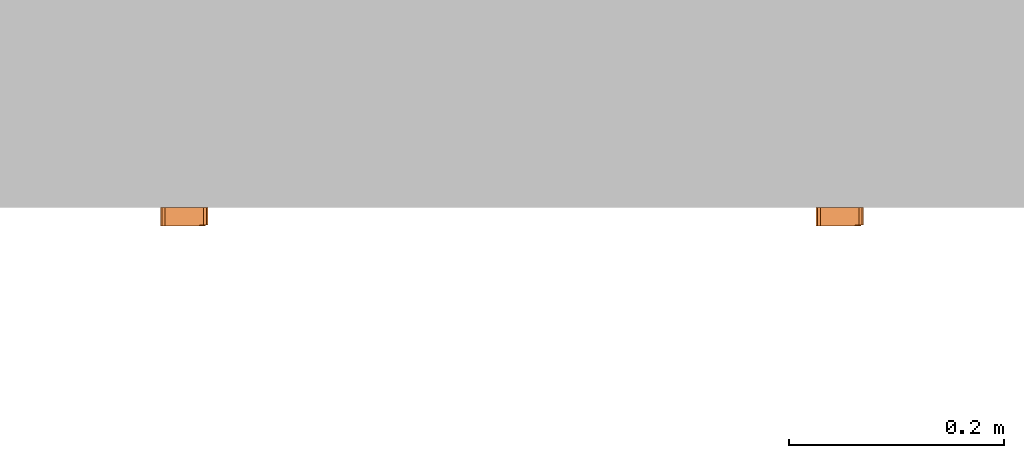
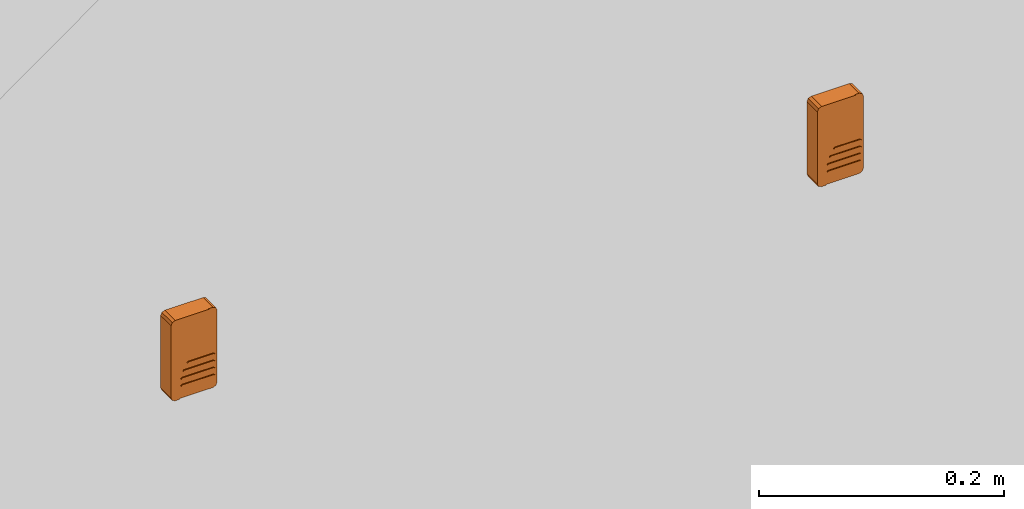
# One storey, part 186 of 197: 2 proxies.
"""IFC2X3 building model written with IfcOpenShell, lengths in metres."""

import ifcopenshell
import ifcopenshell.guid

model = None  # the IFC model being written
_history = None  # IfcOwnerHistory: only IFC2X3 demands one
_inside = {}  # id of a spatial element -> (the spatial element, [elements in it])
_under = {}  # id of a project, library or spatial element -> (it, [spatial elements below it])
_declared = {}  # id of a project -> (the project, [libraries it declares])
_typed = {}  # id of a type object -> (the type object, [elements of that type])
_made_of = {}  # id of a material, layer set ... -> (it, [elements and type objects made of it])


def new_model(schema):
    """Start an empty IFC model of exactly this schema.

    Asked for "IFC4X3", IfcOpenShell would pick the latest addendum, in which some entities
    have other attributes; the version numbers below select the first issue.
    IFC2X3 requires an IfcOwnerHistory on every rooted entity: one is made here for all.
    """
    global model, _history
    if schema == "IFC4X3":
        model = ifcopenshell.file(schema_version=(4, 3, 0, 0))
    else:
        model = ifcopenshell.file(schema=schema)
    _inside.clear()
    _under.clear()
    _declared.clear()
    _typed.clear()
    _made_of.clear()
    _history = None
    if model.schema == "IFC2X3":
        org = make("IfcOrganization", Name="unknown")
        user = make(
            "IfcPersonAndOrganization",
            ThePerson=make("IfcPerson", FamilyName="unknown"),
            TheOrganization=org,
        )
        app = make(
            "IfcApplication",
            ApplicationDeveloper=org,
            Version="unknown",
            ApplicationFullName="unknown",
            ApplicationIdentifier="unknown",
        )
        _history = make(
            "IfcOwnerHistory",
            OwningUser=user,
            OwningApplication=app,
            ChangeAction="ADDED",
            CreationDate=0,
        )
    return model


def make(cls, **values):
    """One entity of the class cls with the attributes given. An attribute that is None is left unset."""
    return model.create_entity(
        cls, **{name: value for name, value in values.items() if value is not None}
    )


def entity(cls, *values):
    """Any entity or typed value of the class cls, its attributes in the order of the schema. None: left unset."""
    e = model.create_entity(cls)
    for i, value in enumerate(values):
        if value is not None:
            e[i] = value
    return e


def rooted(cls, **values):
    """An entity with a GlobalId (a new one), such as an element, a storey or a relation."""
    return make(cls, GlobalId=ifcopenshell.guid.new(), OwnerHistory=_history, **values)


def si_unit(unit_type, name, prefix=None):
    """IfcSIUnit, for example si_unit("LENGTHUNIT", "METRE", prefix="MILLI")."""
    return make("IfcSIUnit", UnitType=unit_type, Prefix=prefix, Name=name)


def converted_unit(unit_type, name, factor, base, dimensions=None, offset=None):
    """IfcConversionBasedUnit, such as the inch: factor (a typed value) times the base unit."""
    return make(
        "IfcConversionBasedUnit"
        if offset is None
        else "IfcConversionBasedUnitWithOffset",
        ConversionOffset=offset,
        Dimensions=None
        if dimensions is None
        else entity("IfcDimensionalExponents", *dimensions),
        UnitType=unit_type,
        Name=name,
        ConversionFactor=make(
            "IfcMeasureWithUnit", ValueComponent=factor, UnitComponent=base
        ),
    )


def assignment(units):
    """IfcUnitAssignment: the units of a project."""
    return None if units is None else make("IfcUnitAssignment", Units=units)


def point(xyz):
    """IfcCartesianPoint."""
    return None if xyz is None else make("IfcCartesianPoint", Coordinates=xyz)


def direction(xyz):
    """IfcDirection."""
    return None if xyz is None else make("IfcDirection", DirectionRatios=xyz)


def frame(location, z_axis=None, x_axis=None):
    """IfcAxis2Placement3D, a coordinate frame: its origin and axes. An axis left out is left unset."""
    return make(
        "IfcAxis2Placement3D",
        Location=point(location),
        Axis=direction(z_axis),
        RefDirection=direction(x_axis),
    )


def origin():
    """The frame at (0, 0, 0) with its axes left unset."""
    return frame((0.0, 0.0, 0.0))


def place(relative_to, where):
    """IfcLocalPlacement: puts the frame where relative to a parent placement (None: the world)."""
    return make(
        "IfcLocalPlacement", PlacementRelTo=relative_to, RelativePlacement=where
    )


def context(
    kind, dimensions, precision=None, world=None, true_north=None, identifier=None
):
    """IfcGeometricRepresentationContext, for example the 3D "Model" context."""
    return make(
        "IfcGeometricRepresentationContext",
        ContextIdentifier=identifier,
        ContextType=kind,
        CoordinateSpaceDimension=dimensions,
        Precision=precision,
        WorldCoordinateSystem=world,
        TrueNorth=true_north,
    )


def subcontext(parent, identifier, kind, view, scale=None):
    """IfcGeometricRepresentationSubContext, for example "Body" below "Model"."""
    return make(
        "IfcGeometricRepresentationSubContext",
        ContextIdentifier=identifier,
        ContextType=kind,
        ParentContext=parent,
        TargetScale=scale,
        TargetView=view,
    )


def project(units=None, contexts=None):
    """IfcProject with its units and contexts."""
    return rooted(
        "IfcProject",
        Name="project",
        RepresentationContexts=contexts,
        UnitsInContext=assignment(units),
    )


def spatial(cls, under=None, at=None, **own):
    """A site, building, storey or space (cls), placed at a placement, below another one or the project."""
    s = rooted(cls, ObjectPlacement=at, **own)
    if under is not None:
        _under.setdefault(under.id(), (under, []))[1].append(s)
    return s


def faces_of(points, faces, orient=None, outer=None):
    """IfcFace entities. A face is a list of loops; a loop is a list of indices into points, from 0.

    orient and outer hold one flag for each loop. By default every Orientation is true, the
    first loop of a face is its IfcFaceOuterBound and the others are IfcFaceBound.
    """
    made = []
    for i, loops in enumerate(faces):
        bounds = []
        for j, loop in enumerate(loops):
            is_outer = j == 0 if outer is None else outer[i][j]
            bounds.append(
                make(
                    "IfcFaceOuterBound" if is_outer else "IfcFaceBound",
                    Bound=make("IfcPolyLoop", Polygon=[points[k] for k in loop]),
                    Orientation=True if orient is None else orient[i][j],
                )
            )
        made.append(make("IfcFace", Bounds=bounds))
    return made


def faceted_brep(points, faces, orient=None, outer=None, voids=None):
    """IfcFacetedBrep: a solid bounded by flat faces; with voids (closed shells), ...WithVoids."""
    shared = [point(p) for p in points]
    hull = make("IfcClosedShell", CfsFaces=faces_of(shared, faces, orient, outer))
    if voids is None:
        return make("IfcFacetedBrep", Outer=hull)
    return make(
        "IfcFacetedBrepWithVoids",
        Outer=hull,
        Voids=[
            make(cls, CfsFaces=faces_of(shared, fs, o, b)) for cls, fs, o, b in voids
        ],
    )


def shape(context_of_items, identifier, shape_type, items):
    """IfcShapeRepresentation: the items that make up one representation, for example the "Body"."""
    return make(
        "IfcShapeRepresentation",
        ContextOfItems=context_of_items,
        RepresentationIdentifier=identifier,
        RepresentationType=shape_type,
        Items=items,
    )


def source(mapping_origin, context_of_items, identifier, shape_type, items):
    """IfcRepresentationMap: a shape defined once, which mapped items show again and again."""
    return make(
        "IfcRepresentationMap",
        MappingOrigin=mapping_origin,
        MappedRepresentation=shape(context_of_items, identifier, shape_type, items),
    )


def transform(
    local_origin,
    x_axis=None,
    y_axis=None,
    z_axis=None,
    scale=None,
    scale2=None,
    scale3=None,
    uniform=True,
):
    """IfcCartesianTransformationOperator3D, or its non-uniform kind. x_axis, y_axis, z_axis: its Axis1, 2, 3."""
    if uniform:
        return make(
            "IfcCartesianTransformationOperator3D",
            Axis1=direction(x_axis),
            Axis2=direction(y_axis),
            LocalOrigin=point(local_origin),
            Scale=scale,
            Axis3=direction(z_axis),
        )
    return make(
        "IfcCartesianTransformationOperator3DnonUniform",
        Axis1=direction(x_axis),
        Axis2=direction(y_axis),
        LocalOrigin=point(local_origin),
        Scale=scale,
        Axis3=direction(z_axis),
        Scale2=scale2,
        Scale3=scale3,
    )


def mapped(mapping_source, mapping_target):
    """IfcMappedItem: shows the shape of a source again, moved by a transform."""
    return make(
        "IfcMappedItem", MappingSource=mapping_source, MappingTarget=mapping_target
    )


def material(Name=None, Category=None):
    """IfcMaterial."""
    return make("IfcMaterial", Name=Name, Category=Category)


def material_list(materials):
    """IfcMaterialList."""
    return make("IfcMaterialList", Materials=materials)


def made_of(thing, what):
    """Note that an element or type object is made of a material, layer set ...; save() writes the relation."""
    if what is not None:
        _made_of.setdefault(what.id(), (what, []))[1].append(thing)
    return thing


def type_object(cls, material=None, **own):
    """A type object (cls), such as IfcWallType, which elements share."""
    return made_of(rooted(cls, **own), material)


def type_shapes(of_type, sources):
    """Give a type object the sources (RepresentationMaps) that its elements show as mapped items."""
    of_type.RepresentationMaps = sources


def element(
    cls,
    number,
    at=None,
    inside=None,
    cuts=None,
    type_object=None,
    material=None,
    context=None,
    identifier="Body",
    shape_type=None,
    held_by="IfcProductDefinitionShape",
    body=None,
    shapes=None,
    **own,
):
    """One element of the class cls, such as IfcWall. Its Tag is "e" and its number.

    at: its placement. inside: the storey or other place that contains it. cuts: it is an
    opening in that element (IfcRelVoidsElement). A single representation is given by context,
    identifier, shape_type and body (its items); several are given by shapes. held_by: the class
    of the entity that holds the representations. save() writes the other relations.
    """
    e = rooted(cls, Tag="e%d" % number, ObjectPlacement=at, **own)
    if body is not None:
        shapes = [shape(context, identifier, shape_type, body)]
    if shapes is not None:
        e.Representation = make(held_by, Representations=shapes)
    if inside is not None:
        _inside.setdefault(inside.id(), (inside, []))[1].append(e)
    if cuts is not None:
        rooted(
            "IfcRelVoidsElement", RelatingBuildingElement=cuts, RelatedOpeningElement=e
        )
    if type_object is not None:
        _typed.setdefault(type_object.id(), (type_object, []))[1].append(e)
    return made_of(e, material)


def aggregate(whole, parts):
    """IfcRelAggregates: a whole, such as a stair, and the parts it consists of."""
    return rooted("IfcRelAggregates", RelatingObject=whole, RelatedObjects=parts)


def save(model, path):
    """Write the relations noted so far, then the file.

    IfcRelAggregates (storeys below a building ...), IfcRelContainedInSpatialStructure (elements
    in a storey), IfcRelDefinesByType, IfcRelAssociatesMaterial and IfcRelDeclares: one each for
    every whole, place, type object, material and project.
    """
    for whole, parts in _under.values():
        aggregate(whole, parts)
    for where, things in _inside.values():
        rooted(
            "IfcRelContainedInSpatialStructure",
            RelatedElements=things,
            RelatingStructure=where,
        )
    for kind, things in _typed.values():
        rooted("IfcRelDefinesByType", RelatedObjects=things, RelatingType=kind)
    for what, things in _made_of.values():
        rooted("IfcRelAssociatesMaterial", RelatedObjects=things, RelatingMaterial=what)
    for by, libraries in _declared.values():
        rooted("IfcRelDeclares", RelatingContext=by, RelatedDefinitions=libraries)
    model.write(path)


model = new_model("IFC2X3")

# Units and contexts
model_context = context("Model", 3, precision=1e-05, world=origin(), true_north=direction((6.123031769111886e-17, 1.0)))
body_context = subcontext(model_context, "Body", "Model", "MODEL_VIEW")
ifc_project = project(units=[si_unit("LENGTHUNIT", "METRE"), converted_unit("PLANEANGLEUNIT", "DEGREE", entity("IfcPlaneAngleMeasure", 0.017453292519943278), si_unit("PLANEANGLEUNIT", "RADIAN"), dimensions=[0, 0, 0, 0, 0, 0, 0]), si_unit("AREAUNIT", "SQUARE_METRE")], contexts=[model_context])

# Site, building, storey
site_placement = place(None, origin())
site = spatial("IfcSite", under=ifc_project, at=site_placement, Name="Default", CompositionType="ELEMENT")
building_placement = place(site_placement, origin())
building = spatial("IfcBuilding", under=site, at=building_placement, CompositionType="ELEMENT")
storey_placement = place(building_placement, origin())
storey = spatial("IfcBuildingStorey", under=building, at=storey_placement, Name="Niveau 0", CompositionType="ELEMENT", Elevation=0.0)

# Proxies
ifc_material_1 = material(Name="BETCE-VOYANT LECTEUR BADGE-VERT")
ifc_material_2 = material(Name="BETCE-LECTEUR BADGE-NOIR")
ifc_material_list = material_list([ifc_material_1, ifc_material_2])
building_element_proxy_type_1 = type_object("IfcBuildingElementProxyType", Name="Lecteur de badge saillie controle acces:BLEU", PredefinedType="NOTDEFINED", material=ifc_material_list)
shared_shape_1 = source(origin(), body_context, "Body", "Brep", [
    faceted_brep([(0.007121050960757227, -0.01700000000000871, 0.019818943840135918), (0.00912105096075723, -0.01700000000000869, 0.01781894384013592), (0.011121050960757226, -0.01700000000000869, 0.01981894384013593), (0.00912105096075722, -0.01700000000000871, 0.02181894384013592), (0.009121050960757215, -0.01600000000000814, 0.021818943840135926), (0.01112105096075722, -0.01600000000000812, 0.019818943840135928), (0.009121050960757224, -0.01600000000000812, 0.017818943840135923), (0.0071210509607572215, -0.01600000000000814, 0.019818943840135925)], [[[0, 1, 2, 3]], [[4, 5, 6, 7]], [[0, 7, 6, 1]], [[6, 5, 2, 1]], [[2, 5, 4, 3]], [[4, 7, 0, 3]]]),
    faceted_brep([(0.00912105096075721, -0.01700000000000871, 0.021818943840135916), (0.014034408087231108, -0.017000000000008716, 0.028399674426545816), (0.014027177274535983, -0.017000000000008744, 0.03400142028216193), (-0.017999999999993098, -0.017000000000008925, 0.03999999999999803), (0.013910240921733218, -0.017000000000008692, 0.023212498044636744), (0.01112105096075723, -0.01700000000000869, 0.019818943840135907), (0.007121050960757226, -0.01700000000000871, 0.019818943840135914), (0.01354322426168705, -0.01700000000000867, 0.01845762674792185), (0.00912105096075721, -0.01700000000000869, 0.01781894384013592), (0.012821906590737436, -0.017000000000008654, 0.014152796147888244), (0.011634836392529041, -0.01700000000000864, 0.010315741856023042), (0.009870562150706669, -0.017000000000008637, 0.0069641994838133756), (0.007417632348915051, -0.017000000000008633, 0.004115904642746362), (0.0041645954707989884, -0.017000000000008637, 0.001788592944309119), (0.014000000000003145, -0.017000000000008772, 0.03999999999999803), (-0.021999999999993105, -0.017000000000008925, 0.035999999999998), (-0.020828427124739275, -0.01700000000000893, 0.03882842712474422), (-0.00416459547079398, -0.01700000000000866, -0.0017885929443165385), (-0.007417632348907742, -0.017000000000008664, -0.004115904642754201), (-0.009870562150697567, -0.01700000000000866, -0.006964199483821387), (-0.011634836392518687, -0.017000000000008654, -0.01031574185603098), (-0.012821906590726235, -0.01700000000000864, -0.014152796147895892), (-0.021999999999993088, -0.01700000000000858, -0.036000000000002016), (-0.013543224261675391, -0.017000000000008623, -0.018457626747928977), (-0.013910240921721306, -0.017000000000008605, -0.023212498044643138), (-0.014034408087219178, -0.01700000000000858, -0.028399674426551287), (-0.014027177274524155, -0.017000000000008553, -0.03400142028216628), (-0.017999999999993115, -0.017000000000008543, -0.04000000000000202), (-0.020828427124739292, -0.017000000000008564, -0.0388284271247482), (-0.01399999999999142, -0.017000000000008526, -0.04000000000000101), (0.0, -0.017000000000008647, 0.0), (0.019649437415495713, -0.017000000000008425, -0.02758760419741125), (0.018649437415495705, -0.017000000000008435, -0.026587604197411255), (-0.011350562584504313, -0.017000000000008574, -0.02658760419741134), (-0.012350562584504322, -0.017000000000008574, -0.027587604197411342), (-0.011350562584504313, -0.017000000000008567, -0.028587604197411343), (0.018649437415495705, -0.017000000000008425, -0.028587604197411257), (0.01964943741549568, -0.017000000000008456, -0.02058760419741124), (0.01864943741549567, -0.017000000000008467, -0.01958760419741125), (-0.011350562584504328, -0.01700000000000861, -0.019587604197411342), (-0.012350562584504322, -0.01700000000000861, -0.020587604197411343), (-0.011350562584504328, -0.0170000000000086, -0.021587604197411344), (0.01864943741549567, -0.017000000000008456, -0.021587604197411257), (0.019649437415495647, -0.01700000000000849, -0.013587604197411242), (0.01864943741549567, -0.0170000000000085, -0.01258760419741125), (-0.009350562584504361, -0.017000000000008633, -0.012587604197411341), (-0.010350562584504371, -0.017000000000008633, -0.013587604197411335), (-0.009350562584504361, -0.017000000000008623, -0.014587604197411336), (0.01864943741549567, -0.01700000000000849, -0.014587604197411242), (0.019649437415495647, -0.017000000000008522, -0.006587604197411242), (0.018649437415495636, -0.017000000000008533, -0.00558760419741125), (-0.005350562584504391, -0.017000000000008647, -0.0055876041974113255), (-0.0063505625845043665, -0.017000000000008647, -0.006587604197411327), (-0.005350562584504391, -0.017000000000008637, -0.007587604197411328), (0.018649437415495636, -0.017000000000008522, -0.007587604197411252), (-0.006350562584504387, -0.016000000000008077, -0.006587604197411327), (-0.007417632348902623, -0.016000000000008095, -0.004115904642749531), (-0.009870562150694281, -0.01600000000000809, -0.0069641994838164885), (-0.005350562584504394, -0.016000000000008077, -0.005587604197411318), (-0.005350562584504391, -0.01600000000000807, -0.0075876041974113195), (-0.004164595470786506, -0.01600000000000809, -0.0017885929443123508), (0.0, -0.01600000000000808, 0.0), (0.01864943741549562, -0.016000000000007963, -0.00558760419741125), (0.004164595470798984, -0.016000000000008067, 0.001788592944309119), (0.007417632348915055, -0.016000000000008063, 0.004115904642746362), (0.00987056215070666, -0.016000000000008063, 0.0069641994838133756), (0.011634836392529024, -0.016000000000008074, 0.010315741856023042), (0.01282190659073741, -0.016000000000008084, 0.01415279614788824), (0.019649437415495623, -0.016000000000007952, -0.006587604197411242), (0.013543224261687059, -0.0160000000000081, 0.01845762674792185), (0.02200000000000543, -0.016000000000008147, 0.035999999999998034), (0.022000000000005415, -0.016000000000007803, -0.03600000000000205), (0.01964943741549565, -0.01600000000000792, -0.013587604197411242), (0.01864943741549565, -0.016000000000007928, -0.01258760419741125), (0.018649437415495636, -0.016000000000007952, -0.007587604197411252), (-0.009350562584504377, -0.016000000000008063, -0.012587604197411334), (0.019649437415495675, -0.016000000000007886, -0.02058760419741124), (0.01864943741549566, -0.016000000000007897, -0.01958760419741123), (0.01864943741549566, -0.01600000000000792, -0.014587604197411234), (-0.00935056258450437, -0.016000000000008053, -0.014587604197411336), (-0.011350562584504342, -0.01600000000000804, -0.019587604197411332), (-0.013543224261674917, -0.016000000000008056, -0.01845762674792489), (-0.012821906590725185, -0.016000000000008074, -0.014152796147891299), (-0.010350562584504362, -0.016000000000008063, -0.013587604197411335), (-0.011634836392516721, -0.016000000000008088, -0.010315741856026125), (-0.012350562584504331, -0.01600000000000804, -0.020587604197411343), (-0.013910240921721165, -0.016000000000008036, -0.02321249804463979), (-0.011350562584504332, -0.016000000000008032, -0.021587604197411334), (-0.011350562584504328, -0.016000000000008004, -0.02658760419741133), (-0.012350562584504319, -0.016000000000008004, -0.027587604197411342), (-0.014034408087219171, -0.01600000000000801, -0.02839967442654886), (-0.011350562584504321, -0.016000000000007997, -0.028587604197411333), (-0.014027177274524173, -0.016000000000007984, -0.03400142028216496), (-0.013999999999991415, -0.016000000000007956, -0.040000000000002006), (0.01800000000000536, -0.016000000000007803, -0.040000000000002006), (0.020828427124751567, -0.016000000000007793, -0.038828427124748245), (0.018649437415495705, -0.016000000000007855, -0.02858760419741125), (0.01864943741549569, -0.016000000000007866, -0.026587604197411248), (0.01864943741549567, -0.016000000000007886, -0.02158760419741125), (0.019649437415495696, -0.016000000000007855, -0.02758760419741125), (0.01391024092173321, -0.016000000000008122, 0.02321249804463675), (0.014034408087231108, -0.016000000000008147, 0.028399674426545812), (0.014027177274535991, -0.016000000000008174, 0.03400142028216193), (0.018000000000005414, -0.016000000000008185, 0.03999999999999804), (0.02082842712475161, -0.016000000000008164, 0.03882842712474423), (0.014000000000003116, -0.016000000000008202, 0.03999999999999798), (0.00912105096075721, -0.01600000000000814, 0.02181894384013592), (0.0071210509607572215, -0.01600000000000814, 0.019818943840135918), (0.009121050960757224, -0.01600000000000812, 0.01781894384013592), (0.01112105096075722, -0.01600000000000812, 0.019818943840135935), (-0.02199999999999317, 0.0, 0.03599999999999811), (-0.020828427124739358, 0.0, 0.038828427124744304), (-0.01799999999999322, 0.0, 0.03999999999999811), (0.01800000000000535, 0.0, 0.03999999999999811), (0.02082842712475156, 0.0, 0.038828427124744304), (0.022000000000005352, 0.0, 0.03599999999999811), (0.022000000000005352, 0.0, -0.03600000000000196), (0.020828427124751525, 0.0, -0.03882842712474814), (0.018000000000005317, 0.0, -0.04000000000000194), (-0.017999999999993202, 0.0, -0.04000000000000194), (-0.020828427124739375, 0.0, -0.038828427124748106), (-0.02199999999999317, 0.0, -0.03600000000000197), (0.01400000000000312, -0.016454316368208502, 0.03999999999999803), (-0.013999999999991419, -0.016545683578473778, -0.04000000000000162), (-0.013995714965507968, -0.016499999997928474, -0.025753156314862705), (-0.014040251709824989, -0.016499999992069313, -0.031149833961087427), (-0.013764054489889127, -0.016499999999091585, -0.020779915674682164), (-0.013233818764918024, -0.016500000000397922, -0.016247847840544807), (-0.010831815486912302, -0.01649999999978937, -0.008578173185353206), (-0.012293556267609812, -0.016499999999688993, -0.012174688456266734), (-0.005898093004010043, -0.016499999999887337, -0.0028860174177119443), (0.0, -0.016454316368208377, 0.0), (-0.008737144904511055, -0.016499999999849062, -0.005476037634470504), (0.008737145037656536, -0.01649999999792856, 0.005476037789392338), (0.005898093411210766, -0.016499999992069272, 0.002886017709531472), (0.010831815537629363, -0.016499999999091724, 0.008578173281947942), (0.012293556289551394, -0.016500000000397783, 0.012174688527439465), (0.013764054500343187, -0.016499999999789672, 0.020779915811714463), (0.01323381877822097, -0.01649999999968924, 0.016247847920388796), (0.014040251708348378, -0.016499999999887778, 0.03114983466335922), (0.0139957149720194, -0.016499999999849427, 0.02575315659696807)], [[[0, 1, 2]], [[2, 3, 0]], [[0, 4, 1]], [[4, 0, 5]], [[6, 0, 3]], [[4, 5, 7]], [[7, 5, 8]], [[9, 7, 8]], [[8, 10, 9]], [[8, 11, 10]], [[8, 12, 11]], [[8, 6, 12]], [[12, 6, 13]], [[3, 2, 14]], [[6, 3, 15]], [[3, 16, 15]], [[17, 6, 15]], [[18, 17, 15]], [[18, 15, 19]], [[20, 19, 15]], [[21, 20, 15]], [[21, 15, 22]], [[23, 21, 22]], [[24, 23, 22]], [[22, 25, 24]], [[22, 26, 25]], [[22, 27, 26]], [[28, 27, 22]], [[29, 26, 27]], [[6, 17, 30]], [[6, 30, 13]], [[31, 32, 33, 34, 35, 36]], [[37, 38, 39, 40, 41, 42]], [[43, 44, 45, 46, 47, 48]], [[49, 50, 51, 52, 53, 54]], [[55, 56, 57]], [[58, 56, 55]], [[59, 55, 57]], [[56, 58, 60]], [[61, 60, 58]], [[62, 61, 58]], [[63, 61, 62]], [[64, 63, 62]], [[62, 65, 64]], [[62, 66, 65]], [[62, 67, 66]], [[68, 67, 62]], [[67, 68, 69]], [[69, 68, 70]], [[68, 71, 70]], [[71, 68, 72]], [[73, 72, 68]], [[73, 68, 74]], [[59, 73, 74]], [[73, 59, 75]], [[71, 72, 76]], [[72, 77, 76]], [[77, 72, 78]], [[77, 78, 79]], [[79, 80, 77]], [[79, 81, 80]], [[79, 82, 81]], [[79, 83, 82]], [[83, 75, 84]], [[82, 83, 84]], [[57, 84, 75]], [[59, 57, 75]], [[85, 80, 81]], [[81, 86, 85]], [[87, 85, 86]], [[86, 88, 87]], [[88, 86, 89]], [[89, 86, 90]], [[90, 91, 89]], [[92, 91, 90]], [[91, 92, 93]], [[91, 93, 94]], [[71, 94, 95]], [[96, 94, 71]], [[96, 91, 94]], [[97, 87, 88]], [[98, 87, 97]], [[97, 76, 98]], [[99, 76, 97]], [[71, 99, 96]], [[71, 76, 99]], [[70, 100, 69]], [[101, 100, 70]], [[101, 70, 102]], [[102, 70, 103]], [[70, 104, 103]], [[105, 102, 103]], [[106, 107, 108, 109]], [[110, 111, 112, 113, 114, 115, 116, 117, 118, 119, 120, 121]], [[3, 14, 122, 105, 103, 113, 112]], [[3, 112, 111, 16]], [[111, 110, 15, 16]], [[22, 15, 110, 121]], [[22, 121, 120, 28]], [[120, 119, 27, 28]], [[27, 119, 118, 94, 93, 123, 29]], [[94, 118, 117, 95]], [[117, 116, 71, 95]], [[70, 71, 116, 115]], [[70, 115, 114, 104]], [[114, 113, 103, 104]], [[26, 29, 123]], [[93, 92, 123]], [[124, 90, 86]], [[124, 125, 90]], [[125, 92, 90]], [[126, 86, 81]], [[126, 124, 86]], [[125, 123, 92]], [[125, 26, 123]], [[25, 124, 24]], [[125, 124, 25]], [[24, 124, 126]], [[81, 82, 127]], [[24, 126, 23]], [[23, 126, 127]], [[127, 126, 81]], [[127, 21, 23]], [[25, 26, 125]], [[128, 84, 57]], [[21, 129, 20]], [[130, 56, 60]], [[131, 17, 130]], [[19, 132, 18]], [[57, 56, 132]], [[60, 61, 63, 131]], [[131, 13, 30, 17]], [[84, 129, 82]], [[20, 129, 128]], [[132, 128, 57]], [[21, 127, 129]], [[128, 132, 19]], [[18, 132, 130]], [[18, 130, 17]], [[130, 60, 131]], [[128, 129, 84]], [[20, 128, 19]], [[130, 132, 56]], [[129, 127, 82]], [[133, 64, 65]], [[133, 134, 64]], [[134, 63, 64]], [[135, 65, 66]], [[135, 133, 65]], [[134, 131, 63]], [[134, 13, 131]], [[12, 133, 11]], [[134, 133, 12]], [[11, 133, 135]], [[66, 67, 136]], [[11, 135, 10]], [[10, 135, 136]], [[136, 135, 66]], [[136, 9, 10]], [[12, 13, 134]], [[137, 69, 100]], [[9, 138, 7]], [[139, 101, 102]], [[122, 2, 139]], [[4, 140, 1]], [[100, 101, 140]], [[102, 105, 122]], [[122, 14, 2]], [[69, 138, 67]], [[7, 138, 137]], [[140, 137, 100]], [[9, 136, 138]], [[137, 140, 4]], [[1, 140, 139]], [[1, 139, 2]], [[139, 102, 122]], [[137, 138, 69]], [[7, 137, 4]], [[139, 140, 101]], [[138, 136, 67]], [[50, 62, 58, 51]], [[58, 55, 52, 51]], [[52, 55, 59, 53]], [[53, 59, 74, 54]], [[74, 68, 49, 54]], [[49, 68, 62, 50]], [[44, 73, 75, 45]], [[75, 83, 46, 45]], [[46, 83, 79, 47]], [[47, 79, 78, 48]], [[78, 72, 43, 48]], [[43, 72, 73, 44]], [[38, 77, 80, 39]], [[80, 85, 40, 39]], [[40, 85, 87, 41]], [[41, 87, 98, 42]], [[98, 76, 37, 42]], [[37, 76, 77, 38]], [[32, 97, 88, 33]], [[88, 89, 34, 33]], [[34, 89, 91, 35]], [[35, 91, 96, 36]], [[96, 99, 31, 36]], [[31, 99, 97, 32]], [[106, 0, 6, 107]], [[109, 5, 0, 106]], [[108, 8, 5, 109]], [[107, 6, 8, 108]]]),
])
type_shapes(building_element_proxy_type_1, [shared_shape_1])
proxy_1_placement = place(storey_placement, frame((-505.77059512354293, -41.558644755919, 1.0)))
element("IfcBuildingElementProxy", 1, at=proxy_1_placement, inside=storey, type_object=building_element_proxy_type_1, material=ifc_material_list, Name="Lecteur de badge saillie controle acces:BLEU", ObjectType="Lecteur de badge saillie controle acces:BLEU", context=body_context, shape_type="MappedRepresentation", body=[
    mapped(shared_shape_1, transform((0.0, 0.0, 0.0), scale=1.0)),
])
building_element_proxy_type_2 = type_object("IfcBuildingElementProxyType", Name="Lecteur de badge saillie controle acces:GRIS", PredefinedType="NOTDEFINED", material=ifc_material_list)
shared_shape_2 = source(origin(), body_context, "Body", "Brep", [
    faceted_brep([(0.007121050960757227, -0.01700000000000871, 0.019818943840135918), (0.00912105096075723, -0.01700000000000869, 0.01781894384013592), (0.011121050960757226, -0.01700000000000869, 0.01981894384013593), (0.00912105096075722, -0.01700000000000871, 0.02181894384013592), (0.009121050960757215, -0.01600000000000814, 0.021818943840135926), (0.01112105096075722, -0.01600000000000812, 0.019818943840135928), (0.009121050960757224, -0.01600000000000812, 0.017818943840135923), (0.0071210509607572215, -0.01600000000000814, 0.019818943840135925)], [[[0, 1, 2, 3]], [[4, 5, 6, 7]], [[0, 7, 6, 1]], [[6, 5, 2, 1]], [[2, 5, 4, 3]], [[4, 7, 0, 3]]]),
    faceted_brep([(0.00912105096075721, -0.01700000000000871, 0.021818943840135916), (0.014034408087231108, -0.017000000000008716, 0.028399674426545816), (0.014027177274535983, -0.017000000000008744, 0.03400142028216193), (-0.017999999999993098, -0.017000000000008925, 0.03999999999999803), (0.013910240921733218, -0.017000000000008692, 0.023212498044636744), (0.01112105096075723, -0.01700000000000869, 0.019818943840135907), (0.007121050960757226, -0.01700000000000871, 0.019818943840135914), (0.01354322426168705, -0.01700000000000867, 0.01845762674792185), (0.00912105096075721, -0.01700000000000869, 0.01781894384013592), (0.012821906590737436, -0.017000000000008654, 0.014152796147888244), (0.011634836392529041, -0.01700000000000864, 0.010315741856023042), (0.009870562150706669, -0.017000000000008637, 0.0069641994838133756), (0.007417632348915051, -0.017000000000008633, 0.004115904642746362), (0.0041645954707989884, -0.017000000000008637, 0.001788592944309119), (0.014000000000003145, -0.017000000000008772, 0.03999999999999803), (-0.021999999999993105, -0.017000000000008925, 0.035999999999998), (-0.020828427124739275, -0.01700000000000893, 0.03882842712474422), (-0.00416459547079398, -0.01700000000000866, -0.0017885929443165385), (-0.007417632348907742, -0.017000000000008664, -0.004115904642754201), (-0.009870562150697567, -0.01700000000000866, -0.006964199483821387), (-0.011634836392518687, -0.017000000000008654, -0.01031574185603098), (-0.012821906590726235, -0.01700000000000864, -0.014152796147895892), (-0.021999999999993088, -0.01700000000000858, -0.036000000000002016), (-0.013543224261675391, -0.017000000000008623, -0.018457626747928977), (-0.013910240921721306, -0.017000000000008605, -0.023212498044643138), (-0.014034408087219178, -0.01700000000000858, -0.028399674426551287), (-0.014027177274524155, -0.017000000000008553, -0.03400142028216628), (-0.017999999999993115, -0.017000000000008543, -0.04000000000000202), (-0.020828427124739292, -0.017000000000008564, -0.0388284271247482), (-0.01399999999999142, -0.017000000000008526, -0.04000000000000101), (0.0, -0.017000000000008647, 0.0), (0.019649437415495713, -0.017000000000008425, -0.02758760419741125), (0.018649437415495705, -0.017000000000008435, -0.026587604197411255), (-0.011350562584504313, -0.017000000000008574, -0.02658760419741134), (-0.012350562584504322, -0.017000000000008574, -0.027587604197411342), (-0.011350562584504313, -0.017000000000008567, -0.028587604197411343), (0.018649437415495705, -0.017000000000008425, -0.028587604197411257), (0.01964943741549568, -0.017000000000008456, -0.02058760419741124), (0.01864943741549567, -0.017000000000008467, -0.01958760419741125), (-0.011350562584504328, -0.01700000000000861, -0.019587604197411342), (-0.012350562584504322, -0.01700000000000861, -0.020587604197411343), (-0.011350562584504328, -0.0170000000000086, -0.021587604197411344), (0.01864943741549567, -0.017000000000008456, -0.021587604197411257), (0.019649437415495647, -0.01700000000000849, -0.013587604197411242), (0.01864943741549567, -0.0170000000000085, -0.01258760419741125), (-0.009350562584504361, -0.017000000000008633, -0.012587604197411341), (-0.010350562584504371, -0.017000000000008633, -0.013587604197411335), (-0.009350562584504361, -0.017000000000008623, -0.014587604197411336), (0.01864943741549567, -0.01700000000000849, -0.014587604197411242), (0.019649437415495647, -0.017000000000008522, -0.006587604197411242), (0.018649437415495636, -0.017000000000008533, -0.00558760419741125), (-0.005350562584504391, -0.017000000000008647, -0.0055876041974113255), (-0.0063505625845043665, -0.017000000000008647, -0.006587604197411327), (-0.005350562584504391, -0.017000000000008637, -0.007587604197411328), (0.018649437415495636, -0.017000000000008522, -0.007587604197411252), (-0.006350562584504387, -0.016000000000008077, -0.006587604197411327), (-0.007417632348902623, -0.016000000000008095, -0.004115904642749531), (-0.009870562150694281, -0.01600000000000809, -0.0069641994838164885), (-0.005350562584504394, -0.016000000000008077, -0.005587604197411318), (-0.005350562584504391, -0.01600000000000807, -0.0075876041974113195), (-0.004164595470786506, -0.01600000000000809, -0.0017885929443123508), (0.0, -0.01600000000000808, 0.0), (0.01864943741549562, -0.016000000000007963, -0.00558760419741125), (0.004164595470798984, -0.016000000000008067, 0.001788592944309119), (0.007417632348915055, -0.016000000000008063, 0.004115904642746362), (0.00987056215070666, -0.016000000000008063, 0.0069641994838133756), (0.011634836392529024, -0.016000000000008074, 0.010315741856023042), (0.01282190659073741, -0.016000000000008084, 0.01415279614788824), (0.019649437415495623, -0.016000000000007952, -0.006587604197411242), (0.013543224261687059, -0.0160000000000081, 0.01845762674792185), (0.02200000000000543, -0.016000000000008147, 0.035999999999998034), (0.022000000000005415, -0.016000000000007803, -0.03600000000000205), (0.01964943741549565, -0.01600000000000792, -0.013587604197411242), (0.01864943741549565, -0.016000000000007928, -0.01258760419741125), (0.018649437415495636, -0.016000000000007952, -0.007587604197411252), (-0.009350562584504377, -0.016000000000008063, -0.012587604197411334), (0.019649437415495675, -0.016000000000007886, -0.02058760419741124), (0.01864943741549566, -0.016000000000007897, -0.01958760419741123), (0.01864943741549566, -0.01600000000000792, -0.014587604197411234), (-0.00935056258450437, -0.016000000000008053, -0.014587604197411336), (-0.011350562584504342, -0.01600000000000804, -0.019587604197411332), (-0.013543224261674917, -0.016000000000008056, -0.01845762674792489), (-0.012821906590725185, -0.016000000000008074, -0.014152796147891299), (-0.010350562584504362, -0.016000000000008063, -0.013587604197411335), (-0.011634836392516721, -0.016000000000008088, -0.010315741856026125), (-0.012350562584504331, -0.01600000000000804, -0.020587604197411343), (-0.013910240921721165, -0.016000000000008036, -0.02321249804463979), (-0.011350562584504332, -0.016000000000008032, -0.021587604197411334), (-0.011350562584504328, -0.016000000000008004, -0.02658760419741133), (-0.012350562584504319, -0.016000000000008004, -0.027587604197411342), (-0.014034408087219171, -0.01600000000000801, -0.02839967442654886), (-0.011350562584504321, -0.016000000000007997, -0.028587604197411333), (-0.014027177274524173, -0.016000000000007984, -0.03400142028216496), (-0.013999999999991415, -0.016000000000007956, -0.040000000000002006), (0.01800000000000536, -0.016000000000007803, -0.040000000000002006), (0.020828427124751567, -0.016000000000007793, -0.038828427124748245), (0.018649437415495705, -0.016000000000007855, -0.02858760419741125), (0.01864943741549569, -0.016000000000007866, -0.026587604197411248), (0.01864943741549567, -0.016000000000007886, -0.02158760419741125), (0.019649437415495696, -0.016000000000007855, -0.02758760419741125), (0.01391024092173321, -0.016000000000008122, 0.02321249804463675), (0.014034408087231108, -0.016000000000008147, 0.028399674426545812), (0.014027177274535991, -0.016000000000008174, 0.03400142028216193), (0.018000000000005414, -0.016000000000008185, 0.03999999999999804), (0.02082842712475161, -0.016000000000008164, 0.03882842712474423), (0.014000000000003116, -0.016000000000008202, 0.03999999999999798), (0.00912105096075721, -0.01600000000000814, 0.02181894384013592), (0.0071210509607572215, -0.01600000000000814, 0.019818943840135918), (0.009121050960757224, -0.01600000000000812, 0.01781894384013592), (0.01112105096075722, -0.01600000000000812, 0.019818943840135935), (-0.02199999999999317, 0.0, 0.03599999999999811), (-0.020828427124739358, 0.0, 0.038828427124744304), (-0.01799999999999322, 0.0, 0.03999999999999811), (0.01800000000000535, 0.0, 0.03999999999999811), (0.02082842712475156, 0.0, 0.038828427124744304), (0.022000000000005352, 0.0, 0.03599999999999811), (0.022000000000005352, 0.0, -0.03600000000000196), (0.020828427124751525, 0.0, -0.03882842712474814), (0.018000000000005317, 0.0, -0.04000000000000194), (-0.017999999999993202, 0.0, -0.04000000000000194), (-0.020828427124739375, 0.0, -0.038828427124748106), (-0.02199999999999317, 0.0, -0.03600000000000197), (0.01400000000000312, -0.016454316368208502, 0.03999999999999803), (-0.013999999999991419, -0.016545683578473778, -0.04000000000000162), (-0.013995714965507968, -0.016499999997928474, -0.025753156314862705), (-0.014040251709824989, -0.016499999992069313, -0.031149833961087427), (-0.013764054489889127, -0.016499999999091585, -0.020779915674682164), (-0.013233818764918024, -0.016500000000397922, -0.016247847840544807), (-0.010831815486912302, -0.01649999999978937, -0.008578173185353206), (-0.012293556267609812, -0.016499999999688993, -0.012174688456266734), (-0.005898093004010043, -0.016499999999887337, -0.0028860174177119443), (0.0, -0.016454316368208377, 0.0), (-0.008737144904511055, -0.016499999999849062, -0.005476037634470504), (0.008737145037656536, -0.01649999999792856, 0.005476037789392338), (0.005898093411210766, -0.016499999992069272, 0.002886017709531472), (0.010831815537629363, -0.016499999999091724, 0.008578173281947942), (0.012293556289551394, -0.016500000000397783, 0.012174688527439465), (0.013764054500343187, -0.016499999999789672, 0.020779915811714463), (0.01323381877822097, -0.01649999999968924, 0.016247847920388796), (0.014040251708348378, -0.016499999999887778, 0.03114983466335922), (0.0139957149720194, -0.016499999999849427, 0.02575315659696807)], [[[0, 1, 2]], [[2, 3, 0]], [[0, 4, 1]], [[4, 0, 5]], [[6, 0, 3]], [[4, 5, 7]], [[7, 5, 8]], [[9, 7, 8]], [[8, 10, 9]], [[8, 11, 10]], [[8, 12, 11]], [[8, 6, 12]], [[12, 6, 13]], [[3, 2, 14]], [[6, 3, 15]], [[3, 16, 15]], [[17, 6, 15]], [[18, 17, 15]], [[18, 15, 19]], [[20, 19, 15]], [[21, 20, 15]], [[21, 15, 22]], [[23, 21, 22]], [[24, 23, 22]], [[22, 25, 24]], [[22, 26, 25]], [[22, 27, 26]], [[28, 27, 22]], [[29, 26, 27]], [[6, 17, 30]], [[6, 30, 13]], [[31, 32, 33, 34, 35, 36]], [[37, 38, 39, 40, 41, 42]], [[43, 44, 45, 46, 47, 48]], [[49, 50, 51, 52, 53, 54]], [[55, 56, 57]], [[58, 56, 55]], [[59, 55, 57]], [[56, 58, 60]], [[61, 60, 58]], [[62, 61, 58]], [[63, 61, 62]], [[64, 63, 62]], [[62, 65, 64]], [[62, 66, 65]], [[62, 67, 66]], [[68, 67, 62]], [[67, 68, 69]], [[69, 68, 70]], [[68, 71, 70]], [[71, 68, 72]], [[73, 72, 68]], [[73, 68, 74]], [[59, 73, 74]], [[73, 59, 75]], [[71, 72, 76]], [[72, 77, 76]], [[77, 72, 78]], [[77, 78, 79]], [[79, 80, 77]], [[79, 81, 80]], [[79, 82, 81]], [[79, 83, 82]], [[83, 75, 84]], [[82, 83, 84]], [[57, 84, 75]], [[59, 57, 75]], [[85, 80, 81]], [[81, 86, 85]], [[87, 85, 86]], [[86, 88, 87]], [[88, 86, 89]], [[89, 86, 90]], [[90, 91, 89]], [[92, 91, 90]], [[91, 92, 93]], [[91, 93, 94]], [[71, 94, 95]], [[96, 94, 71]], [[96, 91, 94]], [[97, 87, 88]], [[98, 87, 97]], [[97, 76, 98]], [[99, 76, 97]], [[71, 99, 96]], [[71, 76, 99]], [[70, 100, 69]], [[101, 100, 70]], [[101, 70, 102]], [[102, 70, 103]], [[70, 104, 103]], [[105, 102, 103]], [[106, 107, 108, 109]], [[110, 111, 112, 113, 114, 115, 116, 117, 118, 119, 120, 121]], [[3, 14, 122, 105, 103, 113, 112]], [[3, 112, 111, 16]], [[111, 110, 15, 16]], [[22, 15, 110, 121]], [[22, 121, 120, 28]], [[120, 119, 27, 28]], [[27, 119, 118, 94, 93, 123, 29]], [[94, 118, 117, 95]], [[117, 116, 71, 95]], [[70, 71, 116, 115]], [[70, 115, 114, 104]], [[114, 113, 103, 104]], [[26, 29, 123]], [[93, 92, 123]], [[124, 90, 86]], [[124, 125, 90]], [[125, 92, 90]], [[126, 86, 81]], [[126, 124, 86]], [[125, 123, 92]], [[125, 26, 123]], [[25, 124, 24]], [[125, 124, 25]], [[24, 124, 126]], [[81, 82, 127]], [[24, 126, 23]], [[23, 126, 127]], [[127, 126, 81]], [[127, 21, 23]], [[25, 26, 125]], [[128, 84, 57]], [[21, 129, 20]], [[130, 56, 60]], [[131, 17, 130]], [[19, 132, 18]], [[57, 56, 132]], [[60, 61, 63, 131]], [[131, 13, 30, 17]], [[84, 129, 82]], [[20, 129, 128]], [[132, 128, 57]], [[21, 127, 129]], [[128, 132, 19]], [[18, 132, 130]], [[18, 130, 17]], [[130, 60, 131]], [[128, 129, 84]], [[20, 128, 19]], [[130, 132, 56]], [[129, 127, 82]], [[133, 64, 65]], [[133, 134, 64]], [[134, 63, 64]], [[135, 65, 66]], [[135, 133, 65]], [[134, 131, 63]], [[134, 13, 131]], [[12, 133, 11]], [[134, 133, 12]], [[11, 133, 135]], [[66, 67, 136]], [[11, 135, 10]], [[10, 135, 136]], [[136, 135, 66]], [[136, 9, 10]], [[12, 13, 134]], [[137, 69, 100]], [[9, 138, 7]], [[139, 101, 102]], [[122, 2, 139]], [[4, 140, 1]], [[100, 101, 140]], [[102, 105, 122]], [[122, 14, 2]], [[69, 138, 67]], [[7, 138, 137]], [[140, 137, 100]], [[9, 136, 138]], [[137, 140, 4]], [[1, 140, 139]], [[1, 139, 2]], [[139, 102, 122]], [[137, 138, 69]], [[7, 137, 4]], [[139, 140, 101]], [[138, 136, 67]], [[50, 62, 58, 51]], [[58, 55, 52, 51]], [[52, 55, 59, 53]], [[53, 59, 74, 54]], [[74, 68, 49, 54]], [[49, 68, 62, 50]], [[44, 73, 75, 45]], [[75, 83, 46, 45]], [[46, 83, 79, 47]], [[47, 79, 78, 48]], [[78, 72, 43, 48]], [[43, 72, 73, 44]], [[38, 77, 80, 39]], [[80, 85, 40, 39]], [[40, 85, 87, 41]], [[41, 87, 98, 42]], [[98, 76, 37, 42]], [[37, 76, 77, 38]], [[32, 97, 88, 33]], [[88, 89, 34, 33]], [[34, 89, 91, 35]], [[35, 91, 96, 36]], [[96, 99, 31, 36]], [[31, 99, 97, 32]], [[106, 0, 6, 107]], [[109, 5, 0, 106]], [[108, 8, 5, 109]], [[107, 6, 8, 108]]]),
])
type_shapes(building_element_proxy_type_2, [shared_shape_2])
proxy_2_placement = place(storey_placement, frame((-505.161595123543, -41.558644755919, 1.0)))
element("IfcBuildingElementProxy", 2, at=proxy_2_placement, inside=storey, type_object=building_element_proxy_type_2, material=ifc_material_list, Name="Lecteur de badge saillie controle acces:GRIS", ObjectType="Lecteur de badge saillie controle acces:GRIS", context=body_context, shape_type="MappedRepresentation", body=[
    mapped(shared_shape_2, transform((0.0, 0.0, 0.0), scale=1.0)),
])

save(model, "model.ifc")
